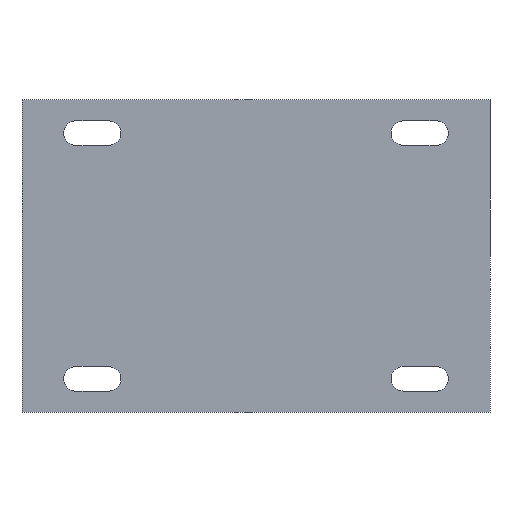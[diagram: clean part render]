
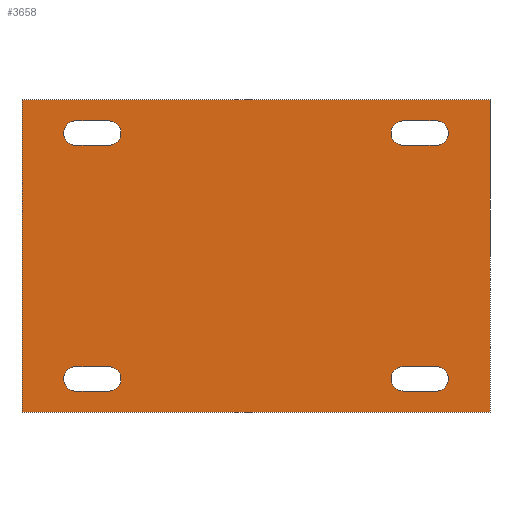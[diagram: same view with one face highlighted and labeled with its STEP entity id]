
A CAD part, front view. The second image highlights one B-rep face of the part: STEP entity #3658.
In plain terms, the highlighted planar face has unit normal (0, -1, 0).
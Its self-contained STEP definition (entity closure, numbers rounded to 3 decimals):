
#103=FACE_BOUND('',#1074,.T.);
#104=FACE_BOUND('',#1075,.T.);
#105=FACE_BOUND('',#1076,.T.);
#106=FACE_BOUND('',#1077,.T.);
#107=CIRCLE('',#3675,3.);
#109=CIRCLE('',#3679,3.);
#111=CIRCLE('',#3683,3.);
#113=CIRCLE('',#3687,3.);
#115=CIRCLE('',#3691,3.);
#117=CIRCLE('',#3695,3.);
#119=CIRCLE('',#3699,3.);
#121=CIRCLE('',#3703,3.);
#737=FACE_OUTER_BOUND('',#1073,.T.);
#1073=EDGE_LOOP('',(#3264,#3265,#3266,#3267));
#1074=EDGE_LOOP('',(#3268,#3269,#3270,#3271));
#1075=EDGE_LOOP('',(#3272,#3273,#3274,#3275));
#1076=EDGE_LOOP('',(#3276,#3277,#3278,#3279));
#1077=EDGE_LOOP('',(#3280,#3281,#3282,#3283));
#1078=LINE('',#5429,#1298);
#1083=LINE('',#5443,#1303);
#1086=LINE('',#5453,#1306);
#1091=LINE('',#5467,#1311);
#1094=LINE('',#5477,#1314);
#1099=LINE('',#5491,#1319);
#1102=LINE('',#5501,#1322);
#1107=LINE('',#5515,#1327);
#1290=LINE('',#6462,#1510);
#1293=LINE('',#6467,#1513);
#1295=LINE('',#6471,#1515);
#1297=LINE('',#6474,#1517);
#1298=VECTOR('',#4187,10.);
#1303=VECTOR('',#4200,10.);
#1306=VECTOR('',#4211,10.);
#1311=VECTOR('',#4224,10.);
#1314=VECTOR('',#4235,10.);
#1319=VECTOR('',#4248,10.);
#1322=VECTOR('',#4259,10.);
#1327=VECTOR('',#4272,10.);
#1510=VECTOR('',#5409,10.);
#1513=VECTOR('',#5414,10.);
#1515=VECTOR('',#5418,10.);
#1517=VECTOR('',#5422,10.);
#1518=VERTEX_POINT('',#5427);
#1519=VERTEX_POINT('',#5428);
#1522=VERTEX_POINT('',#5436);
#1524=VERTEX_POINT('',#5442);
#1526=VERTEX_POINT('',#5451);
#1527=VERTEX_POINT('',#5452);
#1530=VERTEX_POINT('',#5460);
#1532=VERTEX_POINT('',#5466);
#1534=VERTEX_POINT('',#5475);
#1535=VERTEX_POINT('',#5476);
#1538=VERTEX_POINT('',#5484);
#1540=VERTEX_POINT('',#5490);
#1542=VERTEX_POINT('',#5499);
#1543=VERTEX_POINT('',#5500);
#1546=VERTEX_POINT('',#5508);
#1548=VERTEX_POINT('',#5514);
#1834=VERTEX_POINT('',#6460);
#1835=VERTEX_POINT('',#6461);
#1836=VERTEX_POINT('',#6466);
#1837=VERTEX_POINT('',#6470);
#1838=EDGE_CURVE('',#1518,#1519,#1078,.T.);
#1842=EDGE_CURVE('',#1519,#1522,#107,.T.);
#1845=EDGE_CURVE('',#1522,#1524,#1083,.T.);
#1848=EDGE_CURVE('',#1524,#1518,#109,.T.);
#1850=EDGE_CURVE('',#1526,#1527,#1086,.T.);
#1854=EDGE_CURVE('',#1527,#1530,#111,.T.);
#1857=EDGE_CURVE('',#1530,#1532,#1091,.T.);
#1860=EDGE_CURVE('',#1532,#1526,#113,.T.);
#1862=EDGE_CURVE('',#1534,#1535,#1094,.T.);
#1866=EDGE_CURVE('',#1535,#1538,#115,.T.);
#1869=EDGE_CURVE('',#1538,#1540,#1099,.T.);
#1872=EDGE_CURVE('',#1540,#1534,#117,.T.);
#1874=EDGE_CURVE('',#1542,#1543,#1102,.T.);
#1878=EDGE_CURVE('',#1543,#1546,#119,.T.);
#1881=EDGE_CURVE('',#1546,#1548,#1107,.T.);
#1884=EDGE_CURVE('',#1548,#1542,#121,.T.);
#2312=EDGE_CURVE('',#1834,#1835,#1290,.T.);
#2315=EDGE_CURVE('',#1836,#1834,#1293,.T.);
#2317=EDGE_CURVE('',#1837,#1836,#1295,.T.);
#2319=EDGE_CURVE('',#1835,#1837,#1297,.T.);
#3264=ORIENTED_EDGE('',*,*,#2319,.F.);
#3265=ORIENTED_EDGE('',*,*,#2312,.F.);
#3266=ORIENTED_EDGE('',*,*,#2315,.F.);
#3267=ORIENTED_EDGE('',*,*,#2317,.F.);
#3268=ORIENTED_EDGE('',*,*,#1845,.T.);
#3269=ORIENTED_EDGE('',*,*,#1848,.T.);
#3270=ORIENTED_EDGE('',*,*,#1838,.T.);
#3271=ORIENTED_EDGE('',*,*,#1842,.T.);
#3272=ORIENTED_EDGE('',*,*,#1857,.T.);
#3273=ORIENTED_EDGE('',*,*,#1860,.T.);
#3274=ORIENTED_EDGE('',*,*,#1850,.T.);
#3275=ORIENTED_EDGE('',*,*,#1854,.T.);
#3276=ORIENTED_EDGE('',*,*,#1869,.T.);
#3277=ORIENTED_EDGE('',*,*,#1872,.T.);
#3278=ORIENTED_EDGE('',*,*,#1862,.T.);
#3279=ORIENTED_EDGE('',*,*,#1866,.T.);
#3280=ORIENTED_EDGE('',*,*,#1881,.T.);
#3281=ORIENTED_EDGE('',*,*,#1884,.T.);
#3282=ORIENTED_EDGE('',*,*,#1874,.T.);
#3283=ORIENTED_EDGE('',*,*,#1878,.T.);
#3410=PLANE('',#4182);
#3658=ADVANCED_FACE('',(#737,#103,#104,#105,#106),#3410,.F.);
#3675=AXIS2_PLACEMENT_3D('',#5437,#4193,#4194);
#3679=AXIS2_PLACEMENT_3D('',#5448,#4205,#4206);
#3683=AXIS2_PLACEMENT_3D('',#5461,#4217,#4218);
#3687=AXIS2_PLACEMENT_3D('',#5472,#4229,#4230);
#3691=AXIS2_PLACEMENT_3D('',#5485,#4241,#4242);
#3695=AXIS2_PLACEMENT_3D('',#5496,#4253,#4254);
#3699=AXIS2_PLACEMENT_3D('',#5509,#4265,#4266);
#3703=AXIS2_PLACEMENT_3D('',#5520,#4277,#4278);
#4182=AXIS2_PLACEMENT_3D('',#6475,#5423,#5424);
#4187=DIRECTION('',(-1.,0.,0.));
#4193=DIRECTION('center_axis',(0.,1.,0.));
#4194=DIRECTION('ref_axis',(-1.,0.,0.));
#4200=DIRECTION('',(1.,0.,0.));
#4205=DIRECTION('center_axis',(0.,1.,0.));
#4206=DIRECTION('ref_axis',(-1.,0.,0.));
#4211=DIRECTION('',(-1.,0.,0.));
#4217=DIRECTION('center_axis',(0.,1.,0.));
#4218=DIRECTION('ref_axis',(-1.,0.,0.));
#4224=DIRECTION('',(1.,0.,0.));
#4229=DIRECTION('center_axis',(0.,1.,0.));
#4230=DIRECTION('ref_axis',(-1.,0.,0.));
#4235=DIRECTION('',(-1.,0.,0.));
#4241=DIRECTION('center_axis',(0.,1.,0.));
#4242=DIRECTION('ref_axis',(-1.,0.,0.));
#4248=DIRECTION('',(1.,0.,0.));
#4253=DIRECTION('center_axis',(0.,1.,0.));
#4254=DIRECTION('ref_axis',(-1.,0.,0.));
#4259=DIRECTION('',(-1.,0.,0.));
#4265=DIRECTION('center_axis',(0.,1.,0.));
#4266=DIRECTION('ref_axis',(-1.,0.,0.));
#4272=DIRECTION('',(1.,0.,0.));
#4277=DIRECTION('center_axis',(0.,1.,0.));
#4278=DIRECTION('ref_axis',(-1.,0.,0.));
#5409=DIRECTION('',(-1.,0.,0.));
#5414=DIRECTION('',(0.,0.,-1.));
#5418=DIRECTION('',(1.,0.,0.));
#5422=DIRECTION('',(0.,0.,1.));
#5423=DIRECTION('center_axis',(0.,1.,0.));
#5424=DIRECTION('ref_axis',(1.,0.,0.));
#5427=CARTESIAN_POINT('',(101.15,0.,-11.1));
#5428=CARTESIAN_POINT('',(93.15,0.,-11.1));
#5429=CARTESIAN_POINT('',(75.15,0.,-11.1));
#5436=CARTESIAN_POINT('',(93.15,0.,-5.1));
#5437=CARTESIAN_POINT('Origin',(93.15,0.,-8.1));
#5442=CARTESIAN_POINT('',(101.15,0.,-5.1));
#5443=CARTESIAN_POINT('',(79.15,0.,-5.1));
#5448=CARTESIAN_POINT('Origin',(101.15,0.,-8.1));
#5451=CARTESIAN_POINT('',(21.15,0.,-11.1));
#5452=CARTESIAN_POINT('',(13.15,0.,-11.1));
#5453=CARTESIAN_POINT('',(35.15,0.,-11.1));
#5460=CARTESIAN_POINT('',(13.15,0.,-5.1));
#5461=CARTESIAN_POINT('Origin',(13.15,0.,-8.1));
#5466=CARTESIAN_POINT('',(21.15,0.,-5.1));
#5467=CARTESIAN_POINT('',(39.15,0.,-5.1));
#5472=CARTESIAN_POINT('Origin',(21.15,0.,-8.1));
#5475=CARTESIAN_POINT('',(101.15,0.,-71.1));
#5476=CARTESIAN_POINT('',(93.075,0.,-71.099));
#5477=CARTESIAN_POINT('',(75.11,0.,-71.097));
#5484=CARTESIAN_POINT('',(93.075,0.,-65.101));
#5485=CARTESIAN_POINT('Origin',(93.15,0.,-68.1));
#5490=CARTESIAN_POINT('',(101.15,0.,-65.1));
#5491=CARTESIAN_POINT('',(79.151,0.,-65.103));
#5496=CARTESIAN_POINT('Origin',(101.15,0.,-68.1));
#5499=CARTESIAN_POINT('',(21.15,0.,-71.1));
#5500=CARTESIAN_POINT('',(13.15,0.,-71.1));
#5501=CARTESIAN_POINT('',(35.15,0.,-71.1));
#5508=CARTESIAN_POINT('',(13.15,0.,-65.1));
#5509=CARTESIAN_POINT('Origin',(13.15,0.,-68.1));
#5514=CARTESIAN_POINT('',(21.15,0.,-65.1));
#5515=CARTESIAN_POINT('',(39.15,0.,-65.1));
#5520=CARTESIAN_POINT('Origin',(21.15,0.,-68.1));
#6460=CARTESIAN_POINT('',(114.3,0.,-76.2));
#6461=CARTESIAN_POINT('',(0.,0.,-76.2));
#6462=CARTESIAN_POINT('',(114.3,0.,-76.2));
#6466=CARTESIAN_POINT('',(114.3,0.,0.));
#6467=CARTESIAN_POINT('',(114.3,0.,0.));
#6470=CARTESIAN_POINT('',(0.,0.,0.));
#6471=CARTESIAN_POINT('',(0.,0.,0.));
#6474=CARTESIAN_POINT('',(0.,0.,-76.2));
#6475=CARTESIAN_POINT('Origin',(57.15,0.,-38.1));
